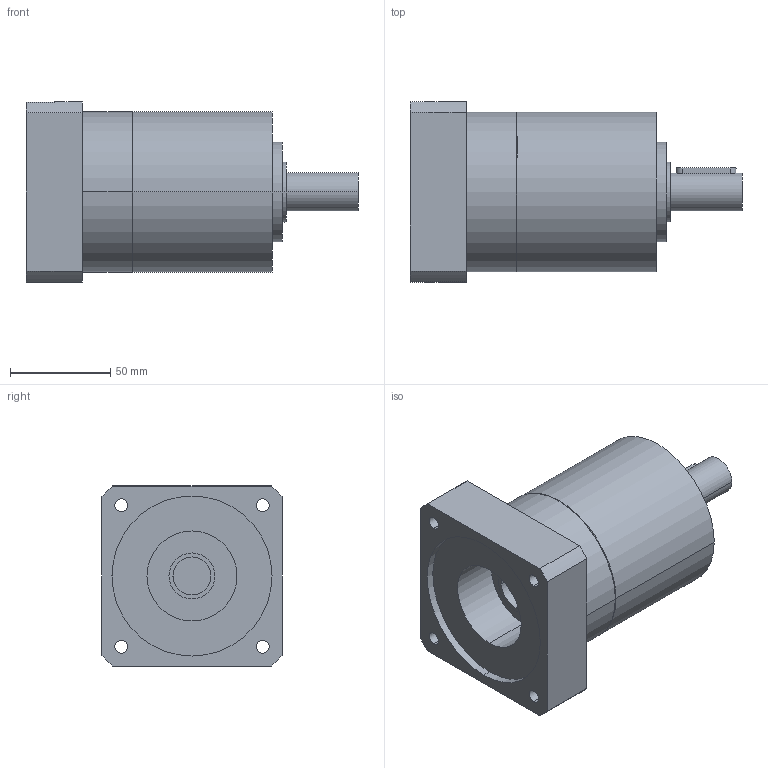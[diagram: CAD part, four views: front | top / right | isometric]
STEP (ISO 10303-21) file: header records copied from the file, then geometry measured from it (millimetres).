
FILE_DESCRIPTION(('CoCreate Modeling STEP Export'),'2;1');
FILE_NAME('GPR100_ig-3-4-5-6_19_B14_19_P28.stp','2014-08-26T10:08:55',(''),(''),'CoCreate Modeling STEP processor for AP214 (Solid Model)','CoCreate Modeling 16.00C 25-Feb-2009 (C) Parametric Technology GmbH','');
FILE_SCHEMA(('AUTOMOTIVE_DESIGN { 1 0 10303 214 1 1 1 1 }'));
Length unit declared in the file: millimetre
Products named in the file (2): GPR100_ig-3-4-5-6_19_B14_19_P28
Assembly tree (1 placements, depth 2):
  GPR100_ig-3-4-5-6_19_B14_19_P28
    GPR100_ig-3-4-5-6_19_B14_19_P28
Bounding box: 166 x 90 x 90 mm (x, y, z)
Volume: 652896.4 mm3; surface area: 63780.9 mm2
Topology: 1 solids, 1 shells, 70 faces, 188 edges, 132 vertices
Faces by surface type: cylinder 42, plane 22, cone 6
Entity records: 1939 total; most frequent: ORIENTED_EDGE 372, CARTESIAN_POINT 360, DIRECTION 262, EDGE_CURVE 186, VERTEX_POINT 132, AXIS2_PLACEMENT_3D 98, EDGE_LOOP 92, FACE_OUTER_BOUND 70
